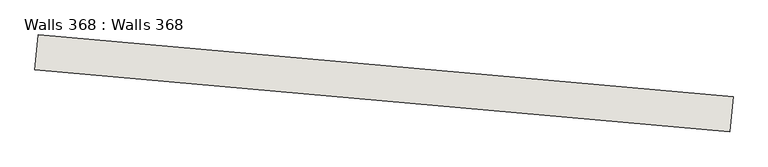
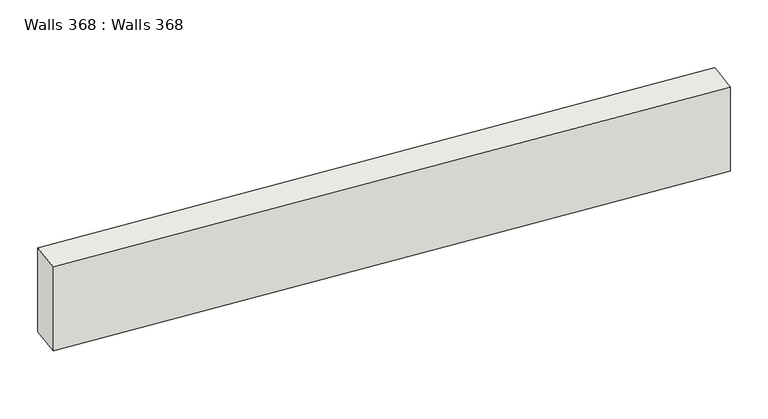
"""IFC4 building model written with IfcOpenShell, lengths in millimetres: wall geometry, Walls 368 : Walls 368."""

from ifc_helpers import new_model, si_unit, frame, origin, place, context, project, spatial, polyline, outline, extrude, source, transform, mapped, element, save


def walls_368_walls_368_5d2f6a5d(model_context):
    return source(origin(), model_context, "Body", "SweptSolid", [
        extrude(outline(polyline([(-674633.634613, -418576.6360001), (-674669.129543, -418975.0580251), (-682637.5700415, -418265.1594238), (-682602.0751114, -417866.7373989), (-674633.634613, -418576.6360001)])), frame((0.0, 0.0, 635860.0), z_axis=(0.0, 0.0, 1.0), x_axis=(1.0, 0.0, 0.0)), (0.0, 0.0, 1.0), 1100.0),
    ])


if __name__ == "__main__":
    model = new_model("IFC4")
    model_context = context("Model", 3, world=origin())
    ifc_project = project(units=[si_unit("LENGTHUNIT", "METRE", prefix="MILLI")], contexts=[model_context])
    site = spatial("IfcSite", under=ifc_project)
    building = spatial("IfcBuilding", under=site)
    placement = place(None, origin())
    walls_368_walls_368_shape = walls_368_walls_368_5d2f6a5d(model_context)
    element("IfcWall", 1, ObjectType="Walls 368 : Walls 368", at=placement, inside=building, context=model_context, shape_type="MappedRepresentation", body=[
        mapped(walls_368_walls_368_shape, transform((0.0, 0.0, 0.0), x_axis=(1.0, 0.0, 0.0), y_axis=(0.0, 1.0, 0.0), z_axis=(0.0, 0.0, 1.0))),
    ])
    save(model, "model.ifc")
